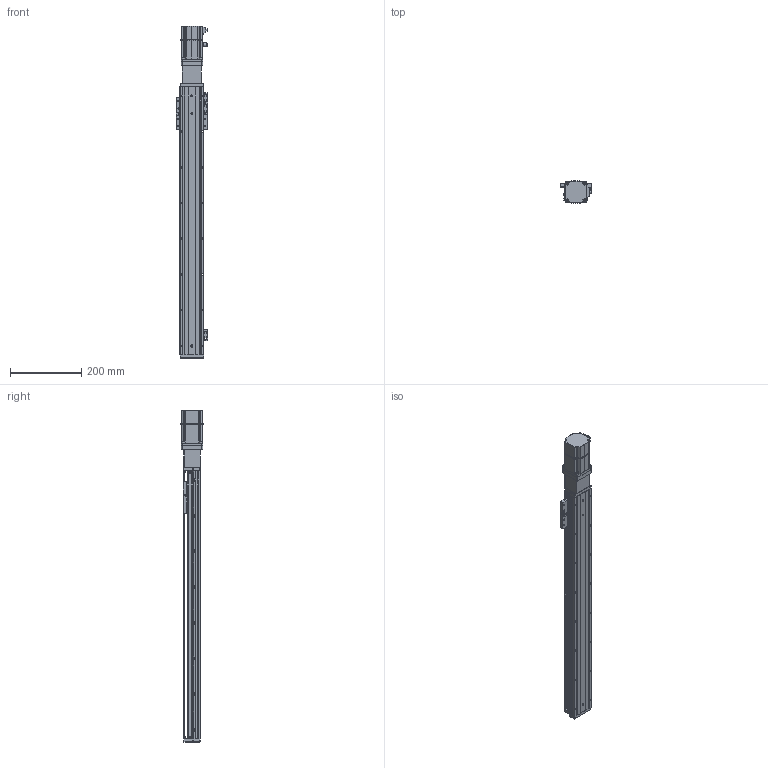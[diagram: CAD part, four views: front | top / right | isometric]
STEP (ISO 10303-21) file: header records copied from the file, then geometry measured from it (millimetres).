
FILE_DESCRIPTION (( 'STEP AP203' ), '1' );
FILE_NAME ('KTHAL60-600-BC-M20-C4L.step', '2022-12-16T01:59:02', ( '微软用户' ), ( '微软中国' ), 'SwSTEP 2.0', 'SolidWorks 2020', '' );
FILE_SCHEMA (( 'CONFIG_CONTROL_DESIGN' ));
Length unit declared in the file: millimetre
Products named in the file (18): KTHA60-005; GBT77-2000M3-3; KTHAL60-600-BC-M20-C4L; GB¨uT 70.2-M3¡Á5_M3¡Á6; GBT 70.1-M3℅6; GBT 70.3-M3℅6; CTHA60-016; EE_SX911P_R; CTHA60-027; KTHA60-001_750; CTHA60-017; CTHA60-013; KTHLA60-002; CTHA60-021; CTHA60-006-3_M20B; KTHA60-004; GBT 70.1-M4×16; _X2_4E0983F1_X0_200W_1
Assembly tree (48 placements, depth 2):
  KTHAL60-600-BC-M20-C4L
    KTHA60-001_750
    KTHLA60-002
    KTHA60-004
    KTHA60-005
    GB¨uT 70.2-M3¡Á5_M3¡Á6  x5
    GBT 70.3-M3℅6  x6
    EE_SX911P_R  x3
    CTHA60-017  x3
    CTHA60-021  x2
    GBT 70.1-M4×16  x8
    GBT77-2000M3-3  x6
    GBT 70.1-M3℅6  x6
    CTHA60-016
    CTHA60-027
    CTHA60-013
    CTHA60-006-3_M20B
    _X2_4E0983F1_X0_200W_1
Bounding box: 87.82 x 62.42 x 929.7 mm (x, y, z)
Volume: 1833507.7 mm3; surface area: 433891.2 mm2
Topology: 51 solids, 51 shells, 2326 faces, 5523 edges, 3385 vertices
Faces by surface type: plane 1261, cylinder 609, cone 295, torus 78, bspline 69, sphere 14
Entity records: 42419 total; most frequent: CARTESIAN_POINT 8166, DIRECTION 6678, ORIENTED_EDGE 6442, EDGE_CURVE 3221, AXIS2_PLACEMENT_3D 2289, VECTOR 2100, LINE 2100, VERTEX_POINT 2007
